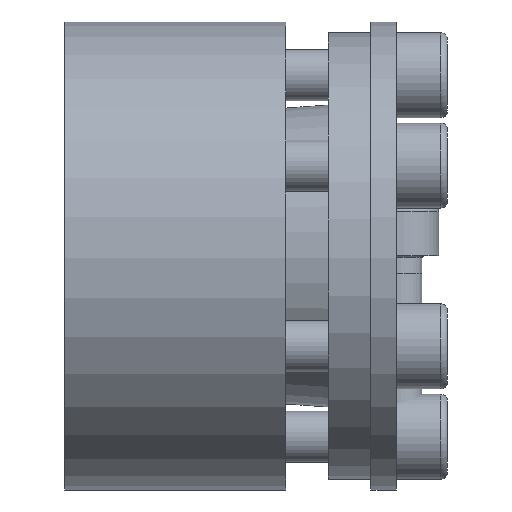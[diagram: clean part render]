
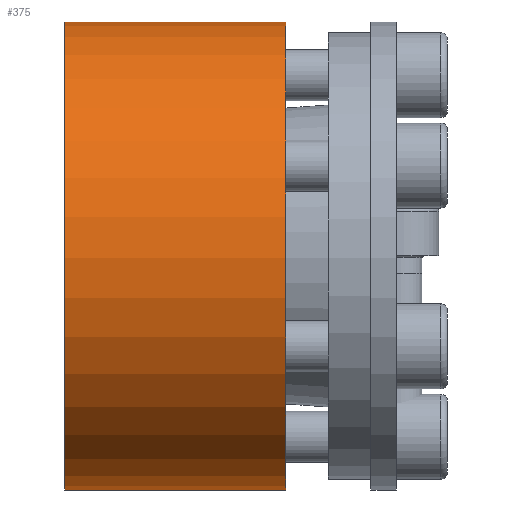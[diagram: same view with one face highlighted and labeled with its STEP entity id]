
A CAD part, left-side view. The second image highlights one B-rep face of the part: STEP entity #375.
In plain terms, the highlighted cylindrical face has radius 27.5 mm (diameter 55 mm), a partial arc.
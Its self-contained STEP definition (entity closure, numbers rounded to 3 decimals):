
#375 = ADVANCED_FACE( '', ( #599 ), #600, .T. );
#599 = FACE_OUTER_BOUND( '', #747, .T. );
#600 = CYLINDRICAL_SURFACE( '', #748, 27.5 );
#747 = EDGE_LOOP( '', ( #977, #978, #979, #980 ) );
#748 = AXIS2_PLACEMENT_3D( '', #981, #982, #983 );
#977 = ORIENTED_EDGE( '', *, *, #1254, .F. );
#978 = ORIENTED_EDGE( '', *, *, #1261, .T. );
#979 = ORIENTED_EDGE( '', *, *, #1266, .T. );
#980 = ORIENTED_EDGE( '', *, *, #1234, .T. );
#981 = CARTESIAN_POINT( '', ( 0., -60., 0. ) );
#982 = DIRECTION( '', ( 0., 1., 0. ) );
#983 = DIRECTION( '', ( 0., 0., -1. ) );
#1234 = EDGE_CURVE( '', #1371, #1369, #1372, .T. );
#1254 = EDGE_CURVE( '', #1406, #1369, #1408, .T. );
#1261 = EDGE_CURVE( '', #1406, #1419, #1421, .F. );
#1266 = EDGE_CURVE( '', #1419, #1371, #1429, .T. );
#1369 = VERTEX_POINT( '', #1491 );
#1371 = VERTEX_POINT( '', #1494 );
#1372 = LINE( '', #1495, #1496 );
#1406 = VERTEX_POINT( '', #1536 );
#1408 = CIRCLE( '', #1539, 27.5 );
#1419 = VERTEX_POINT( '', #1554 );
#1421 = LINE( '', #1557, #1558 );
#1429 = CIRCLE( '', #1569, 27.5 );
#1491 = CARTESIAN_POINT( '', ( 14.224, 13., 23.536 ) );
#1494 = CARTESIAN_POINT( '', ( 14.224, 39., 23.536 ) );
#1495 = CARTESIAN_POINT( '', ( 14.224, -60., 23.536 ) );
#1496 = VECTOR( '', #1611, 1000. );
#1536 = CARTESIAN_POINT( '', ( 13.271, 13., 24.086 ) );
#1539 = AXIS2_PLACEMENT_3D( '', #1658, #1659, #1660 );
#1554 = CARTESIAN_POINT( '', ( 13.271, 39., 24.086 ) );
#1557 = CARTESIAN_POINT( '', ( 13.271, -60., 24.086 ) );
#1558 = VECTOR( '', #1672, 1000. );
#1569 = AXIS2_PLACEMENT_3D( '', #1679, #1680, #1681 );
#1611 = DIRECTION( '', ( 0., -1., 0. ) );
#1658 = CARTESIAN_POINT( '', ( 0., 13., 0. ) );
#1659 = DIRECTION( '', ( 0., -1., 0. ) );
#1660 = DIRECTION( '', ( 0., 0., -1. ) );
#1672 = DIRECTION( '', ( 0., -1., 0. ) );
#1679 = CARTESIAN_POINT( '', ( 0., 39., 0. ) );
#1680 = DIRECTION( '', ( 0., -1., 0. ) );
#1681 = DIRECTION( '', ( 0., 0., -1. ) );
